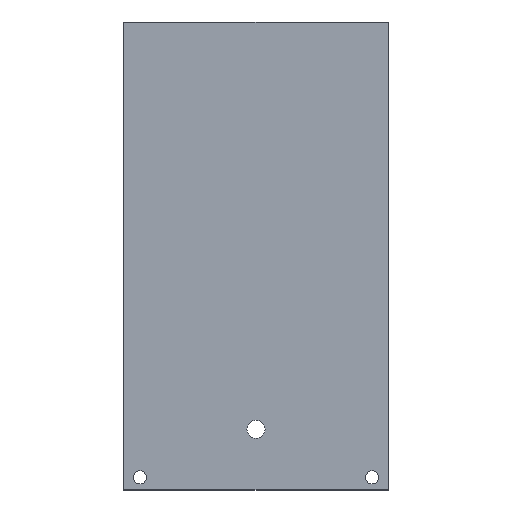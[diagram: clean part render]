
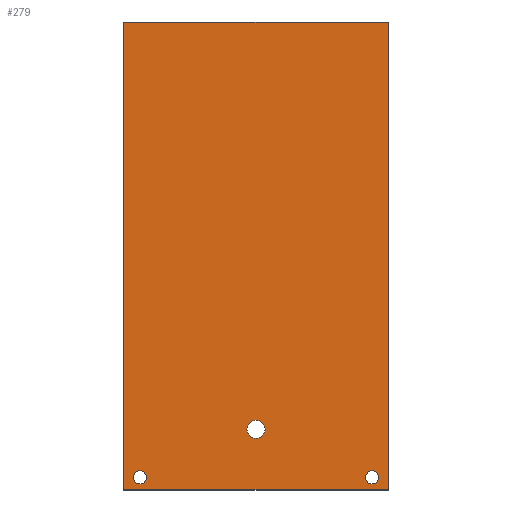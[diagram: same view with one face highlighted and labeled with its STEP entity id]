
A CAD part, top view. The second image highlights one B-rep face of the part: STEP entity #279.
In plain terms, the highlighted planar face has unit normal (0, 0, 1).
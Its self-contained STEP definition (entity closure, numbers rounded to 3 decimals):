
#42 = VERTEX_POINT('',#43);
#43 = CARTESIAN_POINT('',(122.,-98.1,0.93));
#49 = EDGE_CURVE('',#42,#50,#52,.T.);
#50 = VERTEX_POINT('',#51);
#51 = CARTESIAN_POINT('',(78.,-98.1,0.93));
#52 = LINE('',#53,#54);
#53 = CARTESIAN_POINT('',(122.,-98.1,0.93));
#54 = VECTOR('',#55,1.);
#55 = DIRECTION('',(-1.,0.,0.));
#80 = EDGE_CURVE('',#50,#81,#83,.T.);
#81 = VERTEX_POINT('',#82);
#82 = CARTESIAN_POINT('',(78.,-20.3,0.93));
#83 = LINE('',#84,#85);
#84 = CARTESIAN_POINT('',(78.,-98.1,0.93));
#85 = VECTOR('',#86,1.);
#86 = DIRECTION('',(0.,1.,0.));
#111 = EDGE_CURVE('',#81,#112,#114,.T.);
#112 = VERTEX_POINT('',#113);
#113 = CARTESIAN_POINT('',(122.,-20.3,0.93));
#114 = LINE('',#115,#116);
#115 = CARTESIAN_POINT('',(78.,-20.3,0.93));
#116 = VECTOR('',#117,1.);
#117 = DIRECTION('',(1.,0.,0.));
#142 = EDGE_CURVE('',#112,#42,#143,.T.);
#143 = LINE('',#144,#145);
#144 = CARTESIAN_POINT('',(122.,-20.3,0.93));
#145 = VECTOR('',#146,1.);
#146 = DIRECTION('',(0.,-1.,0.));
#166 = VERTEX_POINT('',#167);
#167 = CARTESIAN_POINT('',(81.8,-96.,0.93));
#173 = EDGE_CURVE('',#166,#166,#174,.T.);
#174 = CIRCLE('',#175,1.1);
#175 = AXIS2_PLACEMENT_3D('',#176,#177,#178);
#176 = CARTESIAN_POINT('',(80.7,-96.,0.93));
#177 = DIRECTION('',(0.,0.,1.));
#178 = DIRECTION('',(1.,0.,-0.));
#199 = VERTEX_POINT('',#200);
#200 = CARTESIAN_POINT('',(120.4,-96.,0.93));
#206 = EDGE_CURVE('',#199,#199,#207,.T.);
#207 = CIRCLE('',#208,1.1);
#208 = AXIS2_PLACEMENT_3D('',#209,#210,#211);
#209 = CARTESIAN_POINT('',(119.3,-96.,0.93));
#210 = DIRECTION('',(0.,0.,1.));
#211 = DIRECTION('',(1.,0.,-0.));
#232 = VERTEX_POINT('',#233);
#233 = CARTESIAN_POINT('',(101.5,-88.,0.93));
#239 = EDGE_CURVE('',#232,#232,#240,.T.);
#240 = CIRCLE('',#241,1.5);
#241 = AXIS2_PLACEMENT_3D('',#242,#243,#244);
#242 = CARTESIAN_POINT('',(100.,-88.,0.93));
#243 = DIRECTION('',(0.,0.,1.));
#244 = DIRECTION('',(1.,0.,-0.));
#279 = ADVANCED_FACE('',(#280,#286,#289,#292),#295,.T.);
#280 = FACE_BOUND('',#281,.F.);
#281 = EDGE_LOOP('',(#282,#283,#284,#285));
#282 = ORIENTED_EDGE('',*,*,#49,.T.);
#283 = ORIENTED_EDGE('',*,*,#80,.T.);
#284 = ORIENTED_EDGE('',*,*,#111,.T.);
#285 = ORIENTED_EDGE('',*,*,#142,.T.);
#286 = FACE_BOUND('',#287,.F.);
#287 = EDGE_LOOP('',(#288));
#288 = ORIENTED_EDGE('',*,*,#173,.T.);
#289 = FACE_BOUND('',#290,.F.);
#290 = EDGE_LOOP('',(#291));
#291 = ORIENTED_EDGE('',*,*,#206,.T.);
#292 = FACE_BOUND('',#293,.F.);
#293 = EDGE_LOOP('',(#294));
#294 = ORIENTED_EDGE('',*,*,#239,.T.);
#295 = PLANE('',#296);
#296 = AXIS2_PLACEMENT_3D('',#297,#298,#299);
#297 = CARTESIAN_POINT('',(0.,0.,0.93));
#298 = DIRECTION('',(0.,0.,1.));
#299 = DIRECTION('',(1.,0.,-0.));
